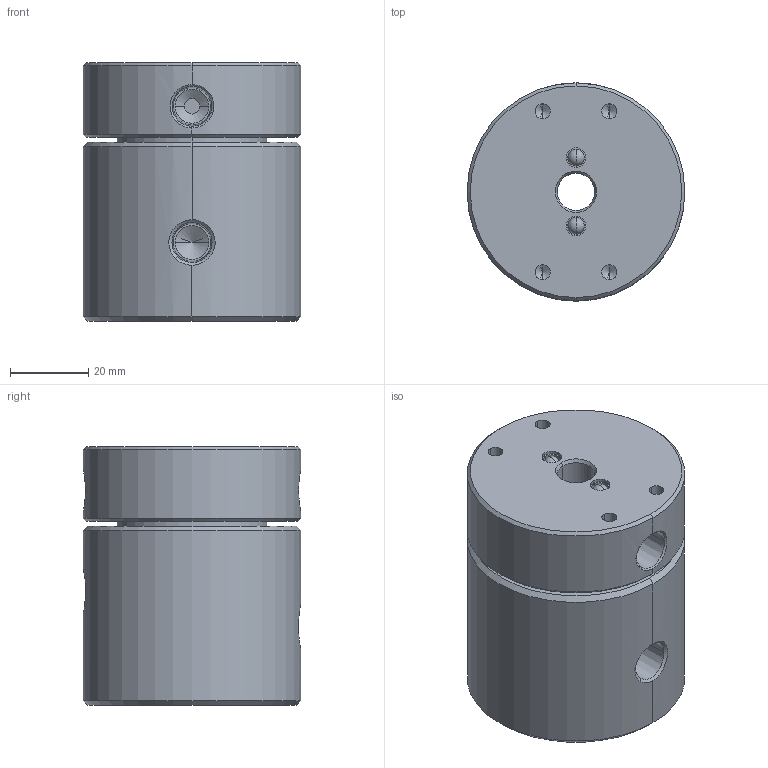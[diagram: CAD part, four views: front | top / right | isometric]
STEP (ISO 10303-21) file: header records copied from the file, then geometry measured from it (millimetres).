
FILE_DESCRIPTION (( 'STEP AP214' ), '1' );
FILE_NAME ('LT(M)-2121.STEP', '2013-01-03T17:17:13', ( '' ), ( '' ), 'SwSTEP 2.0', 'SolidWorks 2011', '' );
FILE_SCHEMA (( 'AUTOMOTIVE_DESIGN' ));
Length unit declared in the file: inch
Products named in the file (1): LT(M)-2121
Bounding box: 55.55 x 55.55 x 65.99 mm (x, y, z)
Volume: 144313.3 mm3; surface area: 23784.8 mm2
Topology: 1 solids, 1 shells, 152 faces, 364 edges, 216 vertices
Faces by surface type: cylinder 66, cone 46, plane 26, bspline 8, sphere 4, torus 2
Entity records: 6078 total; most frequent: CARTESIAN_POINT 1700, DIRECTION 750, ORIENTED_EDGE 672, EDGE_CURVE 336, AXIS2_PLACEMENT_3D 309, VERTEX_POINT 212, EDGE_LOOP 180, CIRCLE 164
